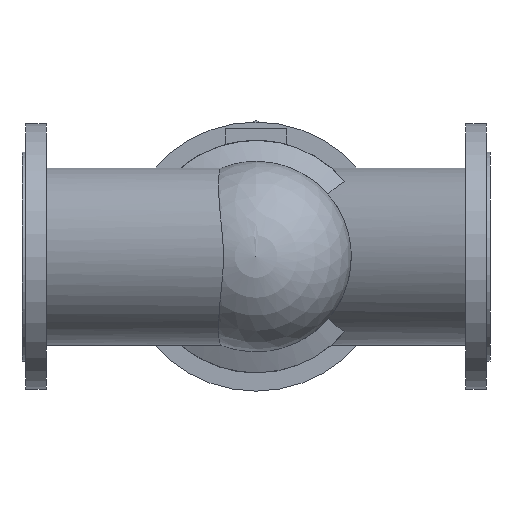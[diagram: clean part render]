
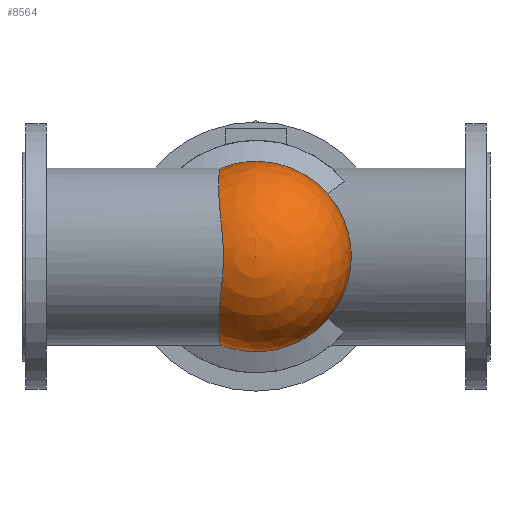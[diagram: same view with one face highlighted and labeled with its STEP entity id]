
A CAD part, front view. The second image highlights one B-rep face of the part: STEP entity #8564.
In plain terms, the highlighted spherical face has radius 122 mm.
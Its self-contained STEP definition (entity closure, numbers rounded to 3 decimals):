
#14=SPHERICAL_SURFACE('',#9098,122.);
#2615=FACE_OUTER_BOUND('',#3120,.T.);
#3120=EDGE_LOOP('',(#7640,#7641,#7642,#7643,#7644,#7645));
#3231=CIRCLE('',#8896,122.);
#3232=CIRCLE('',#8897,122.);
#3305=CIRCLE('',#9099,122.);
#3491=B_SPLINE_CURVE_WITH_KNOTS('',3,(#14255,#14256,#14257,#14258,#14259,
#14260,#14261,#14262,#14263,#14264,#14265,#14266,#14267,#14268,#14269,#14270,
#14271,#14272,#14273,#14274,#14275,#14276),.UNSPECIFIED.,.F.,.F.,(4,2,2,
2,2,2,2,2,2,2,4),(0.,1.081,2.161,3.242,
4.322,6.483,8.644,10.848,13.052,
15.256,17.078),.UNSPECIFIED.);
#3492=B_SPLINE_CURVE_WITH_KNOTS('',3,(#14277,#14278,#14279,#14280,#14281,
#14282,#14283,#14284,#14285,#14286,#14287,#14288,#14289,#14290,#14291,#14292,
#14293,#14294,#14295,#14296,#14297,#14298),.UNSPECIFIED.,.F.,.F.,(4,2,2,
2,2,2,2,2,2,2,4),(-17.078,-15.256,-13.052,
-10.848,-8.644,-6.483,-4.322,
-3.242,-2.161,-1.081,0.),.UNSPECIFIED.);
#4036=VERTEX_POINT('',#14070);
#4037=VERTEX_POINT('',#14071);
#4038=VERTEX_POINT('',#14073);
#4079=VERTEX_POINT('',#14254);
#4258=VERTEX_POINT('',#14861);
#5070=EDGE_CURVE('',#4036,#4037,#3231,.T.);
#5071=EDGE_CURVE('',#4037,#4038,#3232,.T.);
#5135=EDGE_CURVE('',#4079,#4038,#3491,.T.);
#5136=EDGE_CURVE('',#4036,#4079,#3492,.T.);
#5406=EDGE_CURVE('',#4037,#4258,#3305,.T.);
#7640=ORIENTED_EDGE('',*,*,#5135,.T.);
#7641=ORIENTED_EDGE('',*,*,#5071,.F.);
#7642=ORIENTED_EDGE('',*,*,#5406,.T.);
#7643=ORIENTED_EDGE('',*,*,#5406,.F.);
#7644=ORIENTED_EDGE('',*,*,#5070,.F.);
#7645=ORIENTED_EDGE('',*,*,#5136,.T.);
#8564=ADVANCED_FACE('',(#2615),#14,.T.);
#8896=AXIS2_PLACEMENT_3D('',#14072,#10262,#10263);
#8897=AXIS2_PLACEMENT_3D('',#14074,#10264,#10265);
#9098=AXIS2_PLACEMENT_3D('',#14860,#10919,#10920);
#9099=AXIS2_PLACEMENT_3D('',#14862,#10921,#10922);
#10262=DIRECTION('center_axis',(0.,1.,0.));
#10263=DIRECTION('ref_axis',(1.,0.,0.));
#10264=DIRECTION('center_axis',(0.,1.,0.));
#10265=DIRECTION('ref_axis',(1.,0.,0.));
#10919=DIRECTION('center_axis',(0.,1.,0.));
#10920=DIRECTION('ref_axis',(0.,0.,-1.));
#10921=DIRECTION('center_axis',(1.,0.,0.));
#10922=DIRECTION('ref_axis',(0.,0.,1.));
#14070=CARTESIAN_POINT('',(-266.813,-176.693,112.687));
#14071=CARTESIAN_POINT('',(-221.912,-176.693,121.25));
#14072=CARTESIAN_POINT('Origin',(-221.912,-176.693,-0.75));
#14073=CARTESIAN_POINT('',(-266.813,-176.693,-114.187));
#14074=CARTESIAN_POINT('Origin',(-221.912,-176.693,-0.75));
#14254=CARTESIAN_POINT('',(-263.629,-291.338,-0.75));
#14255=CARTESIAN_POINT('Ctrl Pts',(-263.629,-291.338,-0.75));
#14256=CARTESIAN_POINT('Ctrl Pts',(-263.629,-291.338,-4.352));
#14257=CARTESIAN_POINT('Ctrl Pts',(-263.722,-291.135,
-7.993));
#14258=CARTESIAN_POINT('Ctrl Pts',(-264.07,-290.309,
-15.293));
#14259=CARTESIAN_POINT('Ctrl Pts',(-264.322,-289.689,
-18.952));
#14260=CARTESIAN_POINT('Ctrl Pts',(-264.914,-288.046,
-26.229));
#14261=CARTESIAN_POINT('Ctrl Pts',(-265.253,-287.025,
-29.848));
#14262=CARTESIAN_POINT('Ctrl Pts',(-265.951,-284.606,
-36.994));
#14263=CARTESIAN_POINT('Ctrl Pts',(-266.31,-283.208,-40.521));
#14264=CARTESIAN_POINT('Ctrl Pts',(-267.349,-278.497,-50.883));
#14265=CARTESIAN_POINT('Ctrl Pts',(-267.987,-274.656,
-57.507));
#14266=CARTESIAN_POINT('Ctrl Pts',(-268.992,-265.912,
-69.774));
#14267=CARTESIAN_POINT('Ctrl Pts',(-269.363,-261.009,
-75.417));
#14268=CARTESIAN_POINT('Ctrl Pts',(-269.833,-250.551,
-85.523));
#14269=CARTESIAN_POINT('Ctrl Pts',(-269.946,-244.614,
-90.32));
#14270=CARTESIAN_POINT('Ctrl Pts',(-269.89,-231.736,
-98.79));
#14271=CARTESIAN_POINT('Ctrl Pts',(-269.721,-224.795,
-102.462));
#14272=CARTESIAN_POINT('Ctrl Pts',(-269.136,-210.352,
-108.369));
#14273=CARTESIAN_POINT('Ctrl Pts',(-268.719,-202.838,
-110.608));
#14274=CARTESIAN_POINT('Ctrl Pts',(-267.798,-189.06,
-113.293));
#14275=CARTESIAN_POINT('Ctrl Pts',(-267.321,-182.807,
-113.986));
#14276=CARTESIAN_POINT('Ctrl Pts',(-266.813,-176.693,-114.187));
#14277=CARTESIAN_POINT('Ctrl Pts',(-266.813,-176.693,112.687));
#14278=CARTESIAN_POINT('Ctrl Pts',(-267.321,-182.807,
112.486));
#14279=CARTESIAN_POINT('Ctrl Pts',(-267.798,-189.06,
111.793));
#14280=CARTESIAN_POINT('Ctrl Pts',(-268.719,-202.838,
109.108));
#14281=CARTESIAN_POINT('Ctrl Pts',(-269.136,-210.352,
106.869));
#14282=CARTESIAN_POINT('Ctrl Pts',(-269.721,-224.795,
100.962));
#14283=CARTESIAN_POINT('Ctrl Pts',(-269.89,-231.736,
97.29));
#14284=CARTESIAN_POINT('Ctrl Pts',(-269.946,-244.614,
88.82));
#14285=CARTESIAN_POINT('Ctrl Pts',(-269.833,-250.551,
84.023));
#14286=CARTESIAN_POINT('Ctrl Pts',(-269.363,-261.009,
73.917));
#14287=CARTESIAN_POINT('Ctrl Pts',(-268.992,-265.912,
68.274));
#14288=CARTESIAN_POINT('Ctrl Pts',(-267.987,-274.656,
56.007));
#14289=CARTESIAN_POINT('Ctrl Pts',(-267.349,-278.497,49.383));
#14290=CARTESIAN_POINT('Ctrl Pts',(-266.31,-283.208,39.021));
#14291=CARTESIAN_POINT('Ctrl Pts',(-265.951,-284.606,
35.494));
#14292=CARTESIAN_POINT('Ctrl Pts',(-265.253,-287.025,28.348));
#14293=CARTESIAN_POINT('Ctrl Pts',(-264.914,-288.046,
24.729));
#14294=CARTESIAN_POINT('Ctrl Pts',(-264.322,-289.689,
17.452));
#14295=CARTESIAN_POINT('Ctrl Pts',(-264.07,-290.309,
13.793));
#14296=CARTESIAN_POINT('Ctrl Pts',(-263.722,-291.135,
6.493));
#14297=CARTESIAN_POINT('Ctrl Pts',(-263.629,-291.338,2.852));
#14298=CARTESIAN_POINT('Ctrl Pts',(-263.629,-291.338,-0.75));
#14860=CARTESIAN_POINT('Origin',(-221.912,-176.693,-0.75));
#14861=CARTESIAN_POINT('',(-221.912,-298.693,-0.75));
#14862=CARTESIAN_POINT('Origin',(-221.912,-176.693,-0.75));
